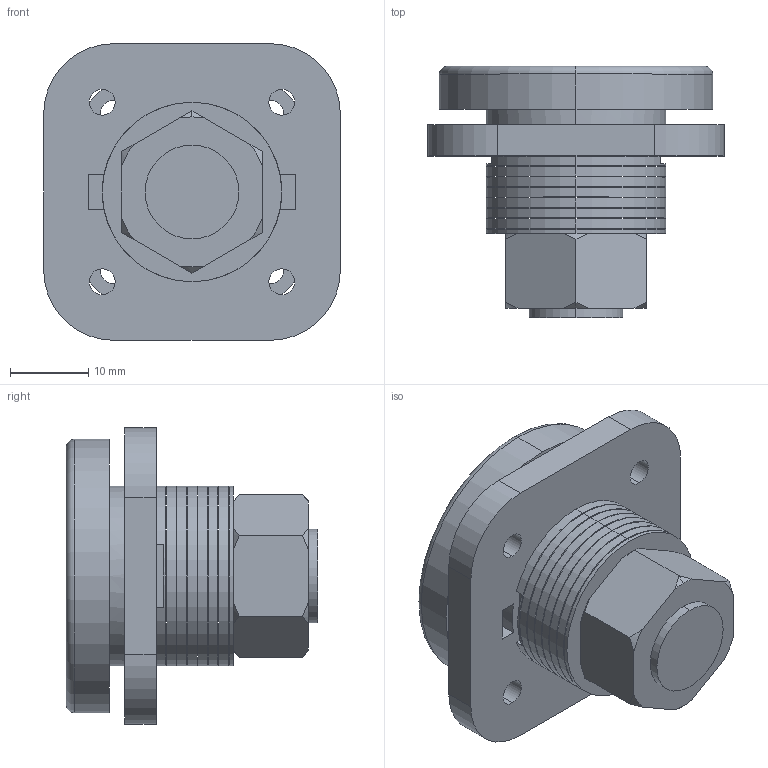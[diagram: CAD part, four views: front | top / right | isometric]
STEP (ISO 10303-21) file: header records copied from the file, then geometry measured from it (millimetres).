
FILE_DESCRIPTION (( 'STEP AP203' ), '1' );
FILE_NAME ('XG11-089.STEP', '2025-04-12T03:49:40', ( '微软用户' ), ( '微软中国' ), 'SwSTEP 2.0', 'SolidWorks 2024', '' );
FILE_SCHEMA (( 'CONFIG_CONTROL_DESIGN' ));
Length unit declared in the file: millimetre
Products named in the file (1): XG11-089
Bounding box: 38 x 32.2 x 38 mm (x, y, z)
Volume: 17275.2 mm3; surface area: 12887.3 mm2
Topology: 8 solids, 8 shells, 113 faces, 268 edges, 176 vertices
Faces by surface type: plane 47, cylinder 46, cone 14, torus 6
Entity records: 3431 total; most frequent: CARTESIAN_POINT 630, DIRECTION 598, ORIENTED_EDGE 536, EDGE_CURVE 268, AXIS2_PLACEMENT_3D 240, VERTEX_POINT 176, EDGE_LOOP 138, CIRCLE 126
